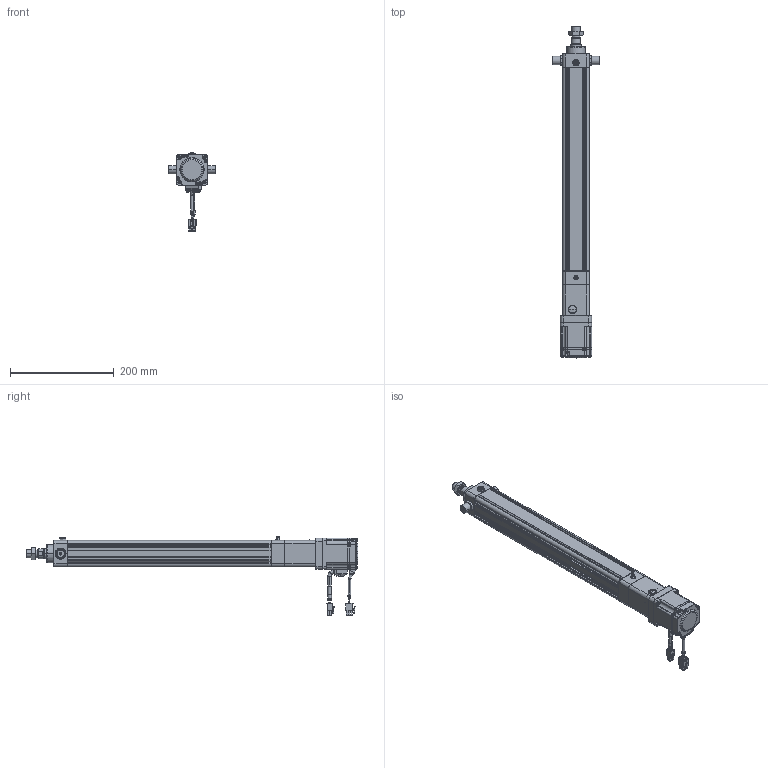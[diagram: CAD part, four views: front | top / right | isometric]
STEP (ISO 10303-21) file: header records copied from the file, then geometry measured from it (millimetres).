
FILE_DESCRIPTION((''),'2;1');
FILE_NAME('HE40-D-100_ASM','2020-05-25T',('ASUS20200'),(''),'CREO PARAMETRIC BY PTC INC, 2014190','CREO PARAMETRIC BY PTC INC, 2014190','');
FILE_SCHEMA(('CONFIG_CONTROL_DESIGN'));
Length unit declared in the file: millimetre
Products named in the file (26): HE40-D-P-001-X1; HE40-D-P-002-X1; HE40-D-P-003-X1; 6200ZZ; HE40-D-009-X1; HE40-D-010-X1; _MHMF022L1A2; _CABLE_MOTOR_BOTTOM_03; _CABLE_MOTOR_TOP_03; _MOTOR_CONNECTOR_2; _CABLE_BRAKE_BOTTOM_03; _CABLE_BRAKE_TOP_03; _MHMF_CONNECTOR_9_PIN_A6; MHMF022L1A2M2_1_ASM; MHMF022L1A2M2_ASM; SLM-01; YZ-M6X1; JDB202820; SKT-13; JX5X5X20; HE40-TC; HE40-D-P-005-X1; HE40-D-P-004-X1; HE40-D-P-008-X1; LGLM-M6-22; HE40-D-100_ASM
Assembly tree (29 placements, depth 4):
  HE40-D-100_ASM
    HE40-D-P-001-X1
    HE40-D-P-002-X1
    HE40-D-P-003-X1
    6200ZZ
    HE40-D-009-X1
    HE40-D-010-X1
    MHMF022L1A2M2_ASM
      MHMF022L1A2M2_1_ASM
        _MHMF022L1A2
        _CABLE_MOTOR_BOTTOM_03
        _CABLE_MOTOR_TOP_03
        _MOTOR_CONNECTOR_2
        _CABLE_BRAKE_BOTTOM_03
        _CABLE_BRAKE_TOP_03
        _MHMF_CONNECTOR_9_PIN_A6
    SLM-01
    YZ-M6X1
    JDB202820
    SKT-13
    JX5X5X20
    HE40-TC  x2
    HE40-D-P-005-X1
    HE40-D-P-004-X1
    HE40-D-P-008-X1
    LGLM-M6-22  x4
Bounding box: 91 x 638.5 x 152.7 mm (x, y, z)
Volume: 908709.8 mm3; surface area: 346396.7 mm2
Topology: 27 solids, 54 shells, 2355 faces, 5743 edges, 3559 vertices
Faces by surface type: plane 970, cylinder 713, cone 546, torus 86, sphere 36, bspline 4
Entity records: 66965 total; most frequent: CARTESIAN_POINT 12849, DIRECTION 11860, ORIENTED_EDGE 10686, EDGE_CURVE 5397, AXIS2_PLACEMENT_3D 4429, VERTEX_POINT 3377, VECTOR 3002, LINE 3002
